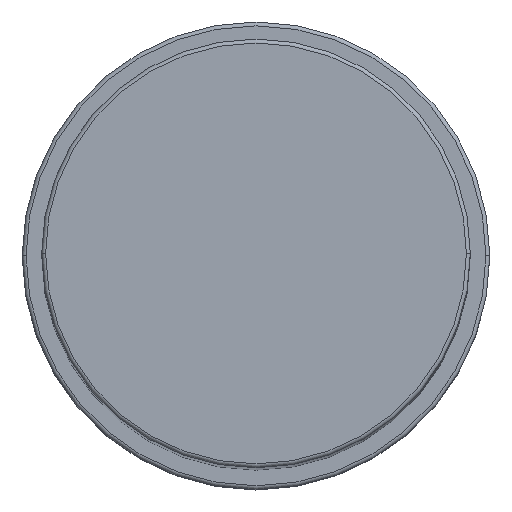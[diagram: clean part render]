
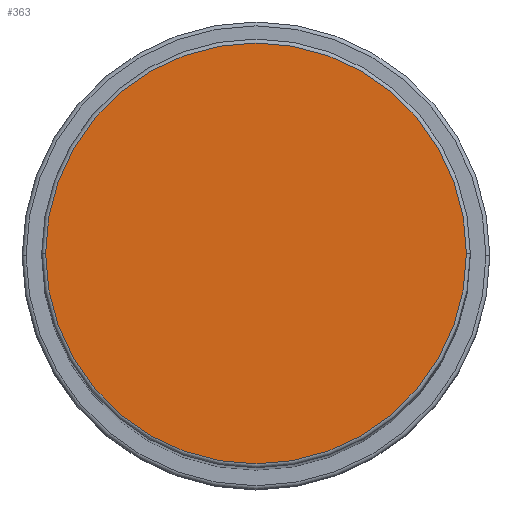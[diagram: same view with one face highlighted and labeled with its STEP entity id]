
A CAD part, top view. The second image highlights one B-rep face of the part: STEP entity #363.
In plain terms, the highlighted planar face has unit normal (0, 0, 1).
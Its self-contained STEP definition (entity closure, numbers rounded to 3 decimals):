
#20 = CIRCLE ( 'NONE', #444, 27. ) ;
#37 = AXIS2_PLACEMENT_3D ( 'NONE', #928, #1563, #1185 ) ;
#44 = PLANE ( 'NONE',  #1242 ) ;
#298 = CARTESIAN_POINT ( 'NONE',  ( 0., 0., 188. ) ) ;
#358 = ORIENTED_EDGE ( 'NONE', *, *, #1575, .T. ) ;
#363 = ADVANCED_FACE ( 'NONE', ( #1442 ), #44, .T. ) ;
#389 = EDGE_CURVE ( 'NONE', #1060, #940, #20, .T. ) ;
#444 = AXIS2_PLACEMENT_3D ( 'NONE', #979, #975, #1461 ) ;
#456 = DIRECTION ( 'NONE',  ( 0., 0., 1. ) ) ;
#867 = CARTESIAN_POINT ( 'NONE',  ( -27., 0., 188. ) ) ;
#928 = CARTESIAN_POINT ( 'NONE',  ( 0., 0., 188. ) ) ;
#940 = VERTEX_POINT ( 'NONE', #867 ) ;
#970 = DIRECTION ( 'NONE',  ( 1., 0., 0. ) ) ;
#975 = DIRECTION ( 'NONE',  ( 0., 0., 1. ) ) ;
#979 = CARTESIAN_POINT ( 'NONE',  ( 0., 0., 188. ) ) ;
#1028 = EDGE_LOOP ( 'NONE', ( #1429, #358 ) ) ;
#1060 = VERTEX_POINT ( 'NONE', #1582 ) ;
#1185 = DIRECTION ( 'NONE',  ( 1., 0., 0. ) ) ;
#1194 = CIRCLE ( 'NONE', #37, 27. ) ;
#1242 = AXIS2_PLACEMENT_3D ( 'NONE', #298, #456, #970 ) ;
#1429 = ORIENTED_EDGE ( 'NONE', *, *, #389, .T. ) ;
#1442 = FACE_OUTER_BOUND ( 'NONE', #1028, .T. ) ;
#1461 = DIRECTION ( 'NONE',  ( 1., 0., 0. ) ) ;
#1563 = DIRECTION ( 'NONE',  ( 0., 0., 1. ) ) ;
#1575 = EDGE_CURVE ( 'NONE', #940, #1060, #1194, .T. ) ;
#1582 = CARTESIAN_POINT ( 'NONE',  ( 27., 0., 188. ) ) ;
